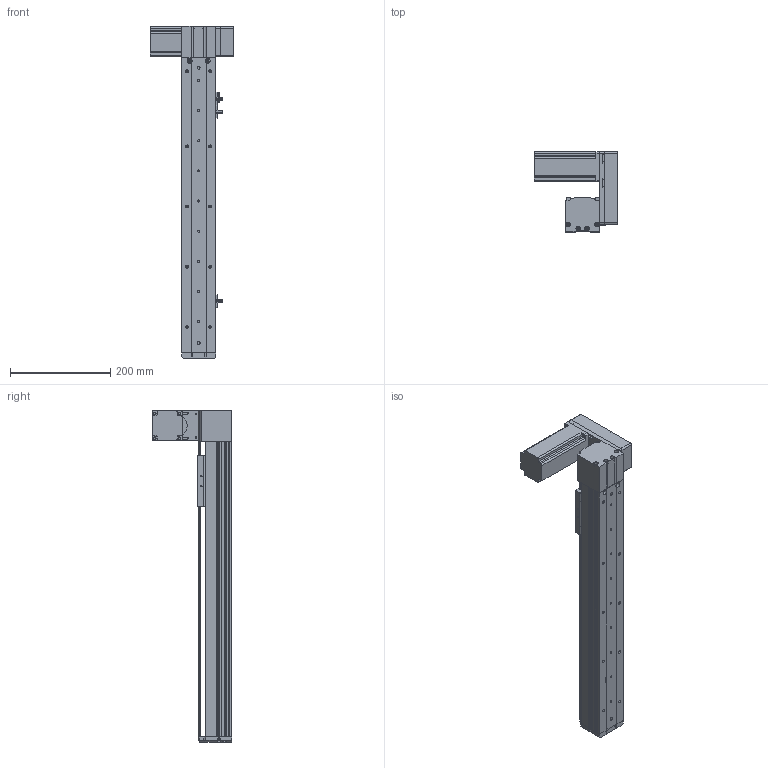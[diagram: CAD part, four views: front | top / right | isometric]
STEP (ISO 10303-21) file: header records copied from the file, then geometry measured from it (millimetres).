
FILE_DESCRIPTION (( 'STEP AP214' ), '1' );
FILE_NAME ('KSD68BS-S400-MLU-CM.STEP', '2019-08-22T02:29:23', ( '微软用户' ), ( '微软中国' ), 'SwSTEP 2.0', 'SolidWorks 2014', '' );
FILE_SCHEMA (( 'AUTOMOTIVE_DESIGN' ));
Length unit declared in the file: millimetre
Products named in the file (11): U倰嫖萇EEㄜSX672; 台达ECMA－C20604AS伺服电机（400W); KSD68BS 400俴最菁啣圉猾敕; KSD68BS-S400-MLU-CM; 悵誘欶奻狟殏; 68宽马达安装板连板上折同步带; 68宽单导轨半封闭同步带主动轮座左; 68单导轨同步带半封闭端板; KSD68BS 400俴最裔啣圉猾敕; 覜茼え68遵圉猾敕; KSD68BS半封闭同步带传动导轨座
Assembly tree (12 placements, depth 2):
  KSD68BS-S400-MLU-CM
    KSD68BS 400俴最菁啣圉猾敕
    台达ECMA－C20604AS伺服电机（400W)
    U倰嫖萇EEㄜSX672  x3
    KSD68BS半封闭同步带传动导轨座
    覜茼え68遵圉猾敕
    KSD68BS 400俴最裔啣圉猾敕
    68单导轨同步带半封闭端板
    68宽单导轨半封闭同步带主动轮座左
    68宽马达安装板连板上折同步带
    悵誘欶奻狟殏
Bounding box: 167.2 x 159.5 x 662 mm (x, y, z)
Volume: 1614186.8 mm3; surface area: 513240.7 mm2
Topology: 13 solids, 13 shells, 1256 faces, 3550 edges, 2304 vertices
Faces by surface type: cylinder 588, plane 585, cone 83
Entity records: 43456 total; most frequent: CARTESIAN_POINT 7886, DIRECTION 5922, ORIENTED_EDGE 5852, EDGE_CURVE 2926, AXIS2_PLACEMENT_3D 2124, VERTEX_POINT 1928, VECTOR 1674, LINE 1674
